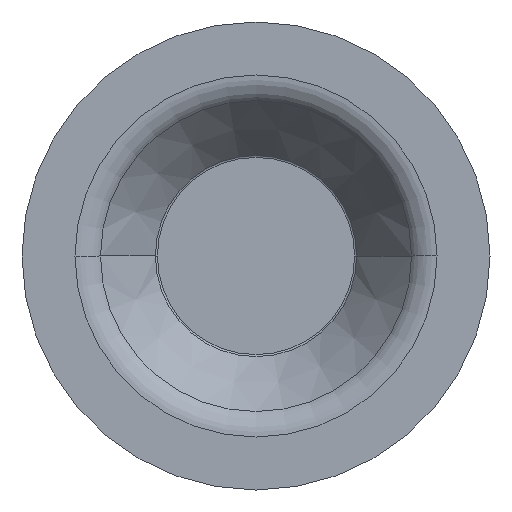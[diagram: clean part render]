
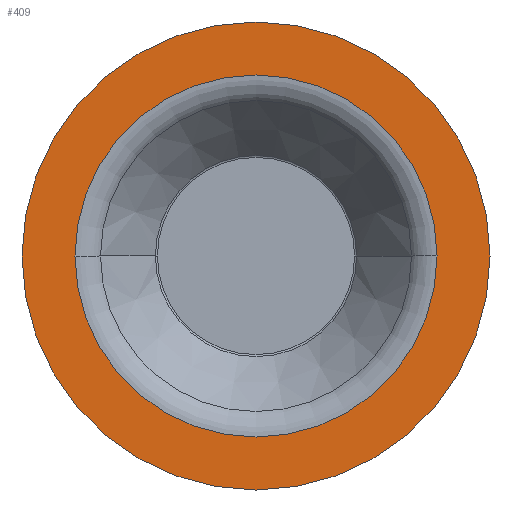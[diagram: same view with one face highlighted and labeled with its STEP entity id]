
A CAD part, front view. The second image highlights one B-rep face of the part: STEP entity #409.
In plain terms, the highlighted planar face has unit normal (0, -1, 0).
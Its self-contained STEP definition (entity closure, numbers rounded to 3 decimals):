
#35 = VERTEX_POINT ( 'NONE', #422 ) ;
#53 = EDGE_CURVE ( 'NONE', #35, #553, #1581, .T. ) ;
#104 = DIRECTION ( 'NONE',  ( 0., -1., 0. ) ) ;
#159 = EDGE_LOOP ( 'NONE', ( #966, #1302 ) ) ;
#197 = DIRECTION ( 'NONE',  ( 1., 0., 0. ) ) ;
#216 = ORIENTED_EDGE ( 'NONE', *, *, #267, .T. ) ;
#267 = EDGE_CURVE ( 'NONE', #1006, #1198, #372, .T. ) ;
#273 = PLANE ( 'NONE',  #935 ) ;
#323 = CARTESIAN_POINT ( 'NONE',  ( 0., -22., 0. ) ) ;
#343 = AXIS2_PLACEMENT_3D ( 'NONE', #893, #383, #1133 ) ;
#372 = CIRCLE ( 'NONE', #713, 47.5 ) ;
#383 = DIRECTION ( 'NONE',  ( 0., -1., 0. ) ) ;
#409 = ADVANCED_FACE ( 'NONE', ( #418, #1434 ), #273, .T. ) ;
#418 = FACE_BOUND ( 'NONE', #159, .T. ) ;
#422 = CARTESIAN_POINT ( 'NONE',  ( 36.744, -22., 0. ) ) ;
#477 = CIRCLE ( 'NONE', #1013, 47.5 ) ;
#553 = VERTEX_POINT ( 'NONE', #660 ) ;
#654 = EDGE_CURVE ( 'NONE', #1198, #1006, #477, .T. ) ;
#656 = ORIENTED_EDGE ( 'NONE', *, *, #654, .T. ) ;
#660 = CARTESIAN_POINT ( 'NONE',  ( -36.744, -22., 0. ) ) ;
#673 = CARTESIAN_POINT ( 'NONE',  ( 47.5, -22., 0. ) ) ;
#683 = DIRECTION ( 'NONE',  ( 0., -1., 0. ) ) ;
#713 = AXIS2_PLACEMENT_3D ( 'NONE', #1260, #1385, #1014 ) ;
#772 = EDGE_CURVE ( 'NONE', #553, #35, #1450, .T. ) ;
#863 = DIRECTION ( 'NONE',  ( -1., 0., 0. ) ) ;
#885 = EDGE_LOOP ( 'NONE', ( #216, #656 ) ) ;
#893 = CARTESIAN_POINT ( 'NONE',  ( 0., -22., 0. ) ) ;
#926 = CARTESIAN_POINT ( 'NONE',  ( 47.5, -22., 0. ) ) ;
#935 = AXIS2_PLACEMENT_3D ( 'NONE', #926, #1184, #1443 ) ;
#966 = ORIENTED_EDGE ( 'NONE', *, *, #772, .F. ) ;
#1006 = VERTEX_POINT ( 'NONE', #673 ) ;
#1013 = AXIS2_PLACEMENT_3D ( 'NONE', #323, #683, #197 ) ;
#1014 = DIRECTION ( 'NONE',  ( 1., 0., 0. ) ) ;
#1133 = DIRECTION ( 'NONE',  ( -1., 0., 0. ) ) ;
#1184 = DIRECTION ( 'NONE',  ( 0., -1., 0. ) ) ;
#1198 = VERTEX_POINT ( 'NONE', #1236 ) ;
#1236 = CARTESIAN_POINT ( 'NONE',  ( -47.5, -22., 0. ) ) ;
#1250 = AXIS2_PLACEMENT_3D ( 'NONE', #1645, #104, #863 ) ;
#1260 = CARTESIAN_POINT ( 'NONE',  ( 0., -22., 0. ) ) ;
#1302 = ORIENTED_EDGE ( 'NONE', *, *, #53, .F. ) ;
#1385 = DIRECTION ( 'NONE',  ( 0., -1., 0. ) ) ;
#1434 = FACE_OUTER_BOUND ( 'NONE', #885, .T. ) ;
#1443 = DIRECTION ( 'NONE',  ( 1., 0., 0. ) ) ;
#1450 = CIRCLE ( 'NONE', #1250, 36.744 ) ;
#1581 = CIRCLE ( 'NONE', #343, 36.744 ) ;
#1645 = CARTESIAN_POINT ( 'NONE',  ( 0., -22., 0. ) ) ;
